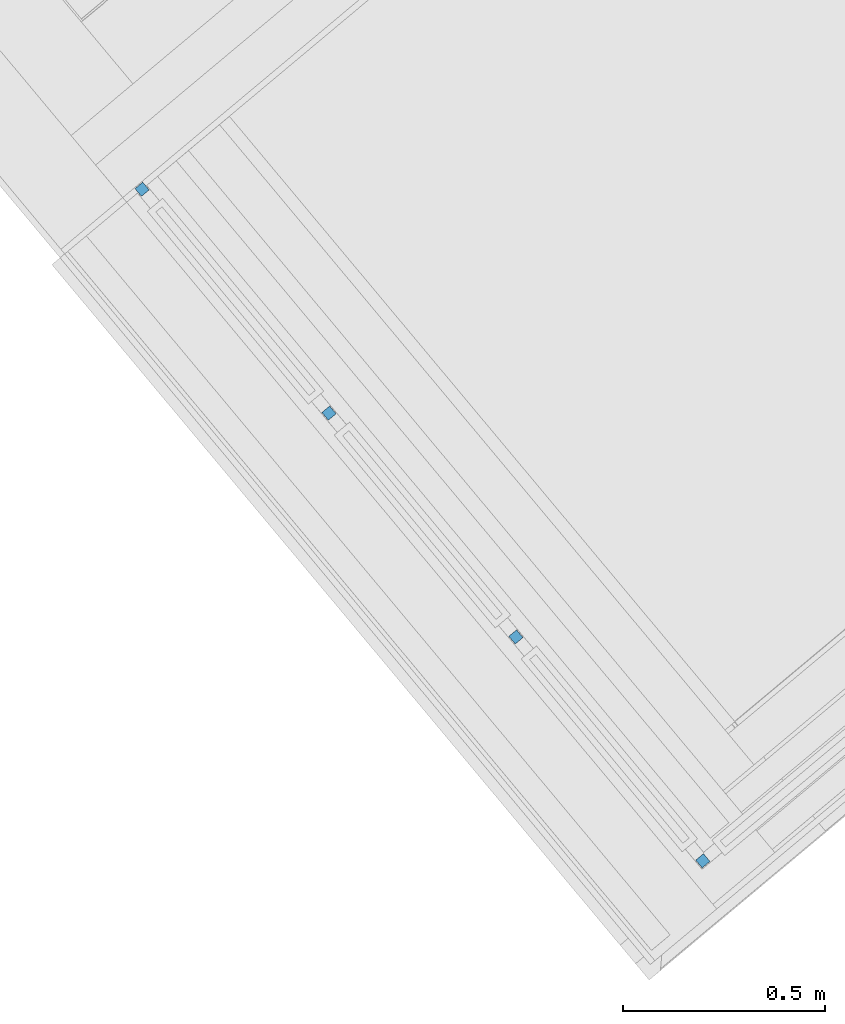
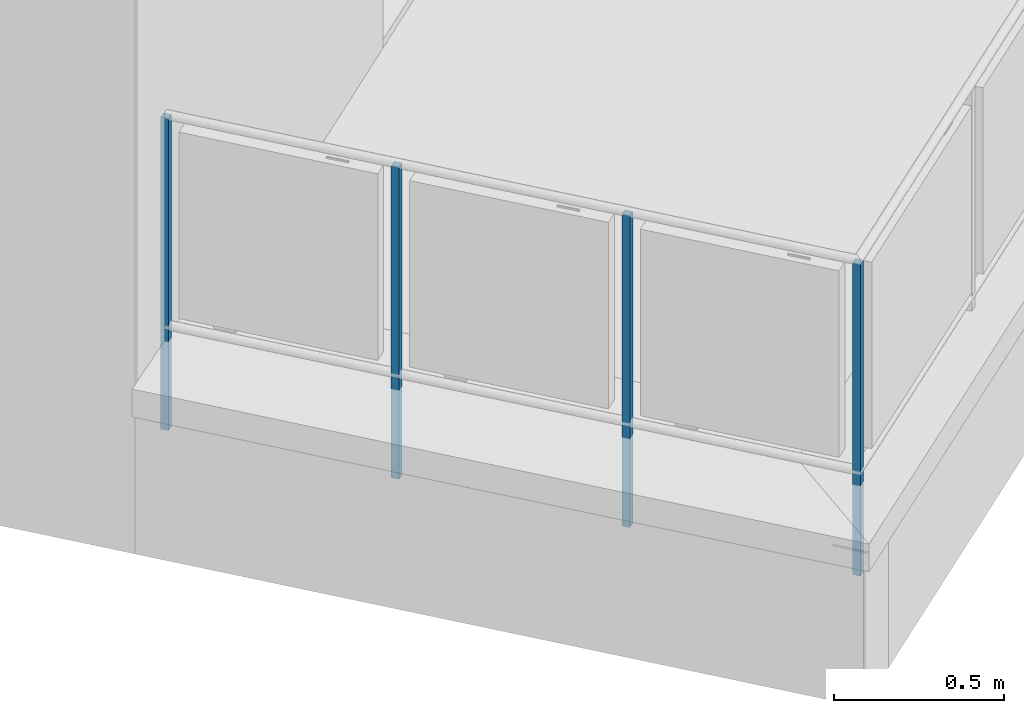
# One storey, part 17 of 53: 4 building element parts, 1 element without a shape of its own.
"""IFC4 building model written with IfcOpenShell, lengths in metres."""

from ifc_helpers import new_model, entity, si_unit, converted_unit, derived_unit, direction, frame, origin_with_axes, place, context, subcontext, project, spatial, polygons, material, type_object, element, aggregate, save


model = new_model("IFC4")

# Units and contexts
model_context = context("Model", 3, precision=1e-05, world=origin_with_axes(), true_north=direction((0.0, 1.0)))
body_context = subcontext(model_context, "Body", "Model", "MODEL_VIEW")
ifc_project = project(units=[si_unit("LENGTHUNIT", "METRE"), si_unit("AREAUNIT", "SQUARE_METRE"), si_unit("VOLUMEUNIT", "CUBIC_METRE"), converted_unit("PLANEANGLEUNIT", "DEGREE", entity("IfcPlaneAngleMeasure", 0.0174532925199), si_unit("PLANEANGLEUNIT", "RADIAN"), dimensions=[0, 0, 0, 0, 0, 0, 0]), converted_unit("TIMEUNIT", "Year", entity("IfcTimeMeasure", 31556926.0), si_unit("TIMEUNIT", "SECOND"), dimensions=[0, 0, 1, 0, 0, 0, 0]), si_unit("MASSUNIT", "GRAM", prefix="KILO"), si_unit("THERMODYNAMICTEMPERATUREUNIT", "DEGREE_CELSIUS"), si_unit("LUMINOUSINTENSITYUNIT", "LUMEN"), si_unit("ENERGYUNIT", "JOULE", prefix="MEGA"), derived_unit("THERMALCONDUCTANCEUNIT", [(si_unit("POWERUNIT", "WATT"), 1), (si_unit("LENGTHUNIT", "METRE"), -1), (si_unit("THERMODYNAMICTEMPERATUREUNIT", "KELVIN"), -1)]), derived_unit("SPECIFICHEATCAPACITYUNIT", [(si_unit("ENERGYUNIT", "JOULE"), 1), (si_unit("MASSUNIT", "GRAM", prefix="KILO"), -1), (si_unit("THERMODYNAMICTEMPERATUREUNIT", "KELVIN"), -1)]), derived_unit("MASSDENSITYUNIT", [(si_unit("MASSUNIT", "GRAM", prefix="KILO"), 1), (si_unit("VOLUMEUNIT", "CUBIC_METRE"), -1)])], contexts=[model_context])

# Site, building, storey, space
site_placement = place(None, frame((-0.00153261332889, -0.00661245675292, 0.0), z_axis=(0.0, 0.0, 1.0), x_axis=(1.0, 0.0, 0.0)))
site = spatial("IfcSite", under=ifc_project, at=site_placement, Name="Gelände", CompositionType="ELEMENT")
building_placement = place(site_placement, origin_with_axes())
building = spatial("IfcBuilding", under=site, at=building_placement, Name="Gebäude", CompositionType="ELEMENT")
storey_placement = place(building_placement, frame((0.0, 0.0, 2.74), z_axis=(0.0, 0.0, 1.0), x_axis=(1.0, 0.0, 0.0)))
storey = spatial("IfcBuildingStorey", under=building, at=storey_placement, Name="OG1", CompositionType="ELEMENT", Elevation=2.74)
space_placement = place(storey_placement, frame((5.82112883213, 13.939405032, 0.22), z_axis=(0.0, 0.0, 1.0), x_axis=(-0.766948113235, -0.641709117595, 0.0)))
space = spatial("IfcSpace", under=storey, at=space_placement, CompositionType="ELEMENT", PredefinedType="NOTDEFINED")

# Railing, building element parts
railing_type = type_object("IfcRailingType", Name="Geländerart", PredefinedType="NOTDEFINED")
railing_placement = place(space_placement, frame((8.7233739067, 0.0, 0.16), z_axis=(0.0, 0.0, 1.0), x_axis=(-0.766948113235, 0.641709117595, 0.0)))
railing = element("IfcRailing", 1, at=railing_placement, inside=space, type_object=railing_type, Name="Geländer - 001", PredefinedType="NOTDEFINED")
ifc_material = material(Name="Aluminium")
building_element_part_1_placement = place(railing_placement, origin_with_axes())
building_element_part_1 = element("IfcBuildingElementPart", 2, at=building_element_part_1_placement, material=ifc_material, Name="Aluminium", PredefinedType="NOTDEFINED", context=body_context, shape_type="Tessellation", body=[
    polygons([(0.0367645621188, 0.014478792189, -0.3), (0.0559540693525, 0.0305026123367, -0.3), (0.0559540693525, 0.0305026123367, 0.82), (0.0367645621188, 0.014478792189, 0.82), (0.020740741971, 0.0336682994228, -0.3), (0.0399302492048, 0.0496921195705, -0.3), (0.0399302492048, 0.0496921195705, 0.82), (0.020740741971, 0.0336682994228, 0.82)], [[[1, 2, 3, 4]], [[1, 5, 6, 2]], [[2, 6, 7, 3]], [[4, 3, 7, 8]], [[5, 1, 4, 8]], [[6, 5, 8, 7]]], closed=True),
])
building_element_part_2_placement = place(railing_placement, origin_with_axes())
building_element_part_2 = element("IfcBuildingElementPart", 3, at=building_element_part_2_placement, material=ifc_material, Name="Aluminium", PredefinedType="NOTDEFINED", context=body_context, shape_type="Tessellation", body=[
    polygons([(1.42697937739, -1.65038869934, -0.3), (1.44616888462, -1.63436487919, -0.3), (1.44616888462, -1.63436487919, 0.82), (1.42697937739, -1.65038869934, 0.82), (1.41095555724, -1.63119919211, -0.3), (1.43014506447, -1.61517537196, -0.3), (1.43014506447, -1.61517537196, 0.82), (1.41095555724, -1.63119919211, 0.82)], [[[1, 2, 3, 4]], [[1, 5, 6, 2]], [[2, 6, 7, 3]], [[4, 3, 7, 8]], [[5, 1, 4, 8]], [[6, 5, 8, 7]]], closed=True),
])
building_element_part_3_placement = place(railing_placement, origin_with_axes())
building_element_part_3 = element("IfcBuildingElementPart", 4, at=building_element_part_3_placement, material=ifc_material, Name="Aluminium", PredefinedType="NOTDEFINED", context=body_context, shape_type="Tessellation", body=[
    polygons([(0.500169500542, -0.540477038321, -0.3), (0.519359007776, -0.524453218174, -0.3), (0.519359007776, -0.524453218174, 0.82), (0.500169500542, -0.540477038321, 0.82), (0.484145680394, -0.521287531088, -0.3), (0.503335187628, -0.50526371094, -0.3), (0.503335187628, -0.50526371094, 0.82), (0.484145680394, -0.521287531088, 0.82)], [[[1, 2, 3, 4]], [[1, 5, 6, 2]], [[2, 6, 7, 3]], [[4, 3, 7, 8]], [[5, 1, 4, 8]], [[6, 5, 8, 7]]], closed=True),
])
building_element_part_4_placement = place(railing_placement, origin_with_axes())
building_element_part_4 = element("IfcBuildingElementPart", 5, at=building_element_part_4_placement, material=ifc_material, Name="Aluminium", PredefinedType="NOTDEFINED", context=body_context, shape_type="Tessellation", body=[
    polygons([(0.963574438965, -1.09543286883, -0.3), (0.982763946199, -1.07940904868, -0.3), (0.982763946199, -1.07940904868, 0.82), (0.963574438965, -1.09543286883, 0.82), (0.947550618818, -1.0762433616, -0.3), (0.966740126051, -1.06021954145, -0.3), (0.966740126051, -1.06021954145, 0.82), (0.947550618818, -1.0762433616, 0.82)], [[[1, 2, 3, 4]], [[1, 5, 6, 2]], [[2, 6, 7, 3]], [[4, 3, 7, 8]], [[5, 1, 4, 8]], [[6, 5, 8, 7]]], closed=True),
])
aggregate(railing, [building_element_part_1, building_element_part_2, building_element_part_3, building_element_part_4])

save(model, "model.ifc")
